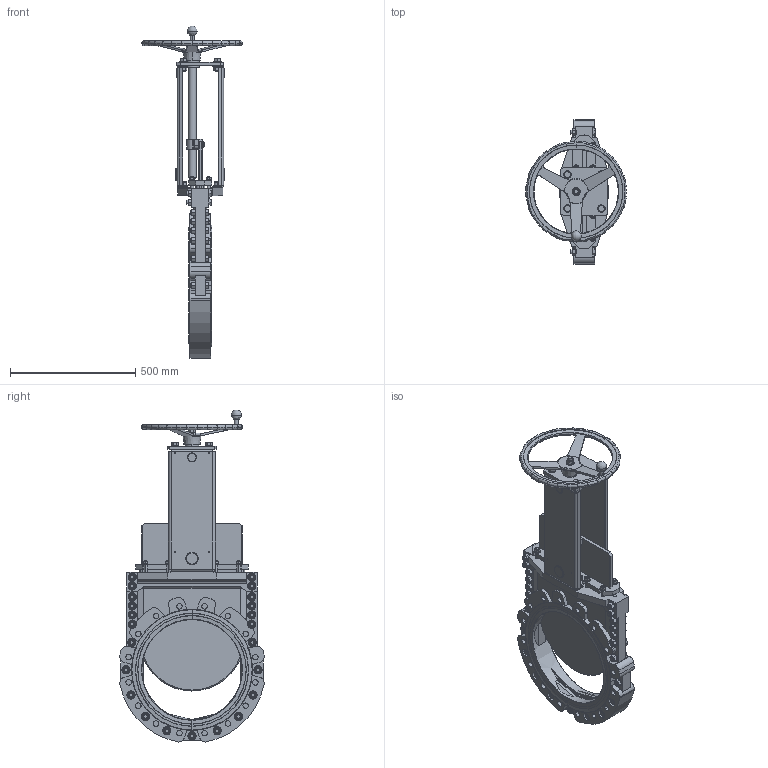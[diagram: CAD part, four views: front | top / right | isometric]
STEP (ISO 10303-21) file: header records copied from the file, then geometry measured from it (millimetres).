
FILE_DESCRIPTION(('STEP AP203'),'1');
FILE_NAME('G:/KONSTRUK/3-d block för CD/WB VALVE/HAND WHEEL/400/WB14-DN400-PN10-HW.stp','2015-06-03T13:31:02',(' '),(' '),'Spatial InterOp 3D',' ',' ');
FILE_SCHEMA(('CONFIG_CONTROL_DESIGN'));
Length unit declared in the file: millimetre
Products named in the file (7): 1; 2; 3; 4; 5; 6; 7
Bounding box: 400.78 x 575.62 x 1322.88 mm (x, y, z)
Volume: 22537742.6 mm3; surface area: 2505981.5 mm2
Topology: 7 solids, 36 shells, 3026 faces, 7037 edges, 4385 vertices
Faces by surface type: plane 1233, cone 910, cylinder 750, torus 123, bspline 8, revolution 2
Entity records: 90858 total; most frequent: CARTESIAN_POINT 22774, DIRECTION 14777, ORIENTED_EDGE 14066, EDGE_CURVE 7033, AXIS2_PLACEMENT_3D 6075, VERTEX_POINT 4385, EDGE_LOOP 3448, CIRCLE 3032
